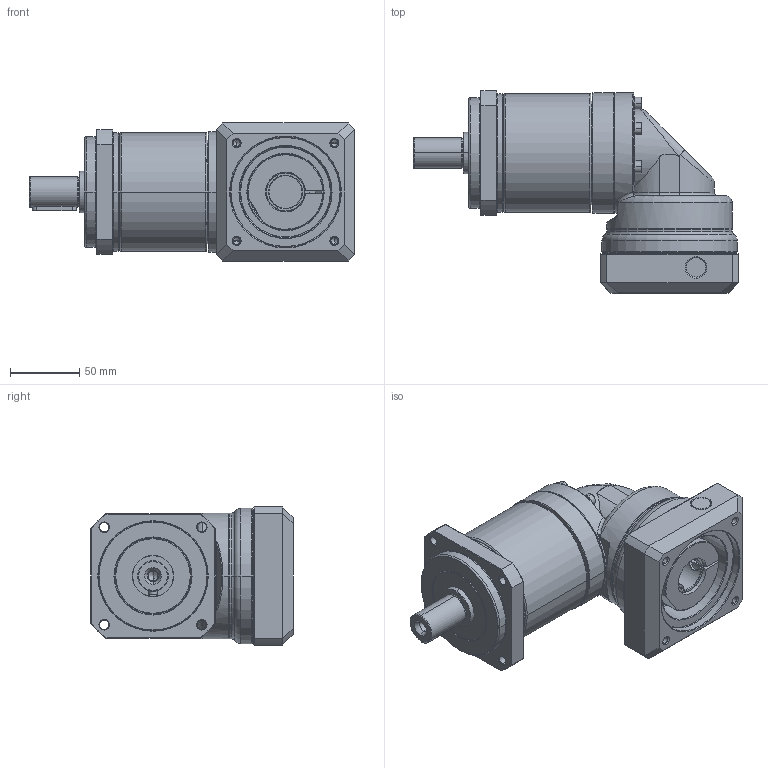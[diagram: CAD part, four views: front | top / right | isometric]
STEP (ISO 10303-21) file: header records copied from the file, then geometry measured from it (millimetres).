
FILE_DESCRIPTION((''),'2;1');
FILE_NAME('PA2R-090_2ST_24-P0411500101_ASM','2016-05-16T',('d01943'),(''),'PRO/ENGINEER BY PARAMETRIC TECHNOLOGY CORPORATION, 2008410','PRO/ENGINEER BY PARAMETRIC TECHNOLOGY CORPORATION, 2008410','');
FILE_SCHEMA(('CONFIG_CONTROL_DESIGN'));
Length unit declared in the file: millimetre
Products named in the file (12): P1327310001; P0251300001; P0350300001; P1349300001; P1017300001; P0713302001; P0503500008; P1350300201; P0411500101; P1702500001; 2111BA05025; PA2R-090_2ST_24-P0411500101_ASM
Assembly tree (16 placements, depth 2):
  PA2R-090_2ST_24-P0411500101_ASM
    P1327310001
    P0251300001
    P0350300001
    P1349300001
    P1017300001
    P0713302001
    P0503500008
    P1350300201
    P0411500101
    P1702500001
    2111BA05025  x6
Bounding box: 235.5 x 146.5 x 100 mm (x, y, z)
Volume: 910314.5 mm3; surface area: 223634.9 mm2
Topology: 16 solids, 16 shells, 814 faces, 1784 edges, 1030 vertices
Faces by surface type: cylinder 246, cone 232, plane 202, torus 102, bspline 32
Entity records: 23777 total; most frequent: CARTESIAN_POINT 9203, DIRECTION 3235, ORIENTED_EDGE 2816, EDGE_CURVE 1408, AXIS2_PLACEMENT_3D 1362, VERTEX_POINT 830, EDGE_LOOP 736, CIRCLE 717
